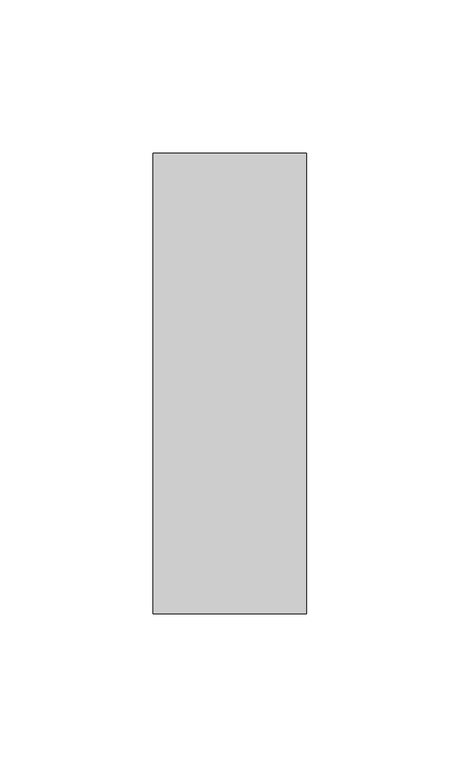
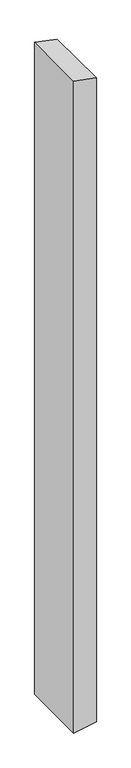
"""IFC4 building model written with IfcOpenShell, lengths in millimetres: member geometry, Прямоугольный импост : 50 x 150 мм."""

from ifc_helpers import new_model, si_unit, frame, origin, place, context, project, spatial, polyline, outline, extrude, source, transform, mapped, element, save


def member_3d1a54f2(model_context):
    return source(origin(), model_context, "Body", "SweptSolid", [
        extrude(outline(polyline([(0.0, 0.0), (9.6733011, -50.0), (-1517.817386, -50.0), (-1508.4431578, 0.0), (0.0, 0.0)])), frame((0.0, -75.0, 0.0), z_axis=(0.0, 1.0, 0.0), x_axis=(0.0, 0.0, 1.0)), (0.0, 0.0, 1.0), 150.0),
    ])


if __name__ == "__main__":
    model = new_model("IFC4")
    model_context = context("Model", 3, world=origin())
    ifc_project = project(units=[si_unit("LENGTHUNIT", "METRE", prefix="MILLI")], contexts=[model_context])
    site = spatial("IfcSite", under=ifc_project)
    building = spatial("IfcBuilding", under=site)
    placement = place(None, origin())
    member_shape = member_3d1a54f2(model_context)
    element("IfcMember", 1, ObjectType="Прямоугольный импост : 50 x 150 мм", at=placement, inside=building, context=model_context, shape_type="MappedRepresentation", body=[
        mapped(member_shape, transform((0.0, 0.0, 0.0), x_axis=(1.0, 0.0, 0.0), y_axis=(0.0, 1.0, 0.0), z_axis=(0.0, 0.0, 1.0))),
    ])
    save(model, "model.ifc")
